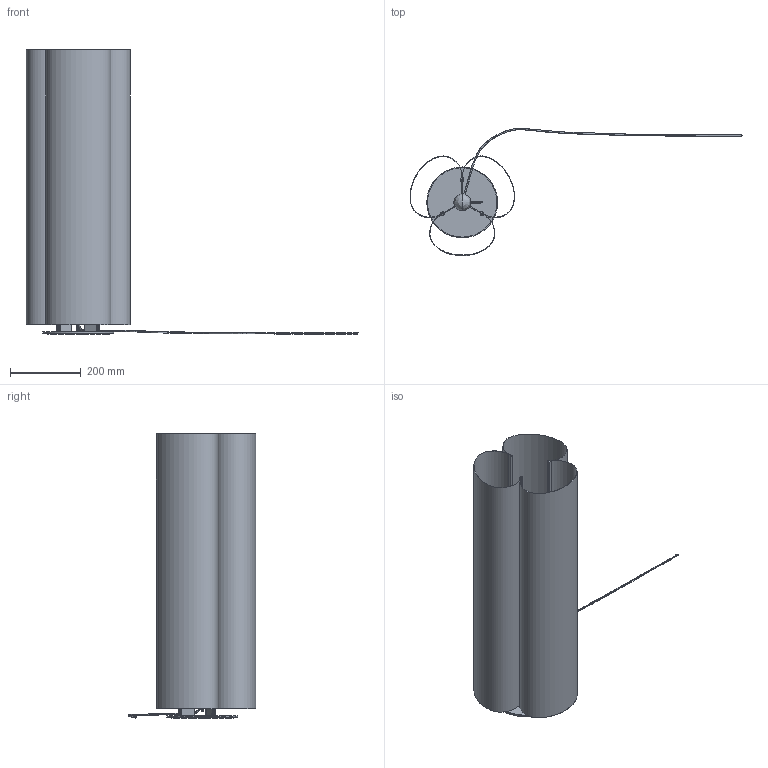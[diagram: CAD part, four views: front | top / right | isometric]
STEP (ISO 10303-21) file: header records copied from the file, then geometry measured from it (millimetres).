
FILE_DESCRIPTION(/* description */ (''),/* implementation_level */ '2;1');
FILE_NAME(/* name */ 'Boe Floor Lamp - H80_3D',/* time_stamp */ '2025-07-24T15:12:11+02:00',/* author */ (''),/* organization */ (''),/* preprocessor_version */ 'ST-DEVELOPER v19.2',/* originating_system */ 'Rhino 8.19',/* authorisation */ '');
FILE_SCHEMA (('CONFIG_CONTROL_DESIGN'));
Length unit declared in the file: millimetre
Products named in the file (1): Document
Bounding box: 936.84 x 359.51 x 802 mm (x, y, z)
Volume: 1015961.2 mm3; surface area: 2231198.3 mm2
Topology: 23 solids, 23 shells, 303 faces, 725 edges, 468 vertices
Faces by surface type: plane 201, cylinder 56, bspline 46
Entity records: 15203 total; most frequent: CARTESIAN_POINT 9623, ORIENTED_EDGE 1446, EDGE_CURVE 723, DIRECTION 611, VERTEX_POINT 473, AXIS2_PLACEMENT_3D 434, EDGE_LOOP 314, ADVANCED_FACE 303
